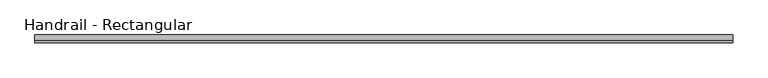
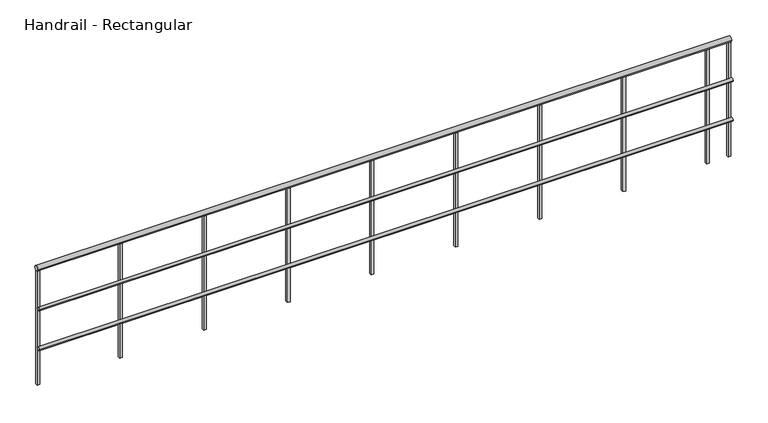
"""IFC4 building model written with IfcOpenShell, lengths in millimetres: railing geometry, Handrail - Rectangular."""

from ifc_helpers import new_model, si_unit, point, frame, frame_2d, origin, place, context, project, spatial, polyline, circle_curve, trimmed, segment, composite_curve, outline, extrude, source, transform, mapped, element, save


def handrail_rectangular_2f5b2840(model_context):
    return source(origin(), model_context, "Body", "SweptSolid", [
        extrude(outline(composite_curve([segment(trimmed(circle_curve(frame_2d((-35578.5683133, 3644.9)), 12.7), [point((-35591.2683133, 3644.9))], [point((-35565.8683133, 3644.9))], False, "CARTESIAN"), True, "CONTINUOUS"), segment(trimmed(circle_curve(frame_2d((-35578.5683133, 3644.9)), 12.7), [point((-35565.8683133, 3644.9))], [point((-35591.2683133, 3644.9))], False, "CARTESIAN"), True, "CONTINUOUS")], self_intersect=False)), frame((-11164.8589563, 0.0, 0.0), z_axis=(1.0, 0.0, 0.0), x_axis=(0.0, 1.0, 0.0)), (0.0, 0.0, 1.0), 5041.9),
        extrude(outline(composite_curve([segment(trimmed(circle_curve(frame_2d((-35578.5683133, 3340.1)), 12.7), [point((-35591.2683133, 3340.1))], [point((-35565.8683133, 3340.1))], False, "CARTESIAN"), True, "CONTINUOUS"), segment(trimmed(circle_curve(frame_2d((-35578.5683133, 3340.1)), 12.7), [point((-35565.8683133, 3340.1))], [point((-35591.2683133, 3340.1))], False, "CARTESIAN"), True, "CONTINUOUS")], self_intersect=False)), frame((-11164.8589563, 0.0, 0.0), z_axis=(1.0, 0.0, 0.0), x_axis=(0.0, 1.0, 0.0)), (0.0, 0.0, 1.0), 5041.9),
        extrude(outline(composite_curve([segment(trimmed(circle_curve(frame_2d((-35553.1683133, 3943.35)), 19.05), [point((-35572.2183133, 3943.35))], [point((-35534.1183133, 3943.35))], False, "CARTESIAN"), True, "CONTINUOUS"), segment(trimmed(circle_curve(frame_2d((-35553.1683133, 3943.35)), 19.05), [point((-35534.1183133, 3943.35))], [point((-35572.2183133, 3943.35))], False, "CARTESIAN"), True, "CONTINUOUS")], self_intersect=False)), frame((-11164.8589563, 0.0, 0.0), z_axis=(1.0, 0.0, 0.0), x_axis=(0.0, 1.0, 0.0)), (0.0, 0.0, 1.0), 5041.9),
        extrude(outline(polyline([(-6297.5839563, -35543.6433133), (-6278.5339563, -35543.6433133), (-6278.5339563, -35562.6933133), (-6297.5839563, -35562.6933133), (-6297.5839563, -35543.6433133)])), frame((0.0, 0.0, 3048.0), z_axis=(0.0, 0.0, 1.0), x_axis=(1.0, 0.0, 0.0)), (0.0, 0.0, 1.0), 876.3),
        extrude(outline(polyline([(-6907.1839563, -35543.6433133), (-6888.1339563, -35543.6433133), (-6888.1339563, -35562.6933133), (-6907.1839563, -35562.6933133), (-6907.1839563, -35543.6433133)])), frame((0.0, 0.0, 3048.0), z_axis=(0.0, 0.0, 1.0), x_axis=(1.0, 0.0, 0.0)), (0.0, 0.0, 1.0), 876.3),
        extrude(outline(polyline([(-7516.7839563, -35543.6433133), (-7497.7339563, -35543.6433133), (-7497.7339563, -35562.6933133), (-7516.7839563, -35562.6933133), (-7516.7839563, -35543.6433133)])), frame((0.0, 0.0, 3048.0), z_axis=(0.0, 0.0, 1.0), x_axis=(1.0, 0.0, 0.0)), (0.0, 0.0, 1.0), 876.3),
        extrude(outline(polyline([(-8126.3839563, -35543.6433133), (-8107.3339563, -35543.6433133), (-8107.3339563, -35562.6933133), (-8126.3839563, -35562.6933133), (-8126.3839563, -35543.6433133)])), frame((0.0, 0.0, 3048.0), z_axis=(0.0, 0.0, 1.0), x_axis=(1.0, 0.0, 0.0)), (0.0, 0.0, 1.0), 876.3),
        extrude(outline(polyline([(-8735.9839563, -35543.6433133), (-8716.9339563, -35543.6433133), (-8716.9339563, -35562.6933133), (-8735.9839563, -35562.6933133), (-8735.9839563, -35543.6433133)])), frame((0.0, 0.0, 3048.0), z_axis=(0.0, 0.0, 1.0), x_axis=(1.0, 0.0, 0.0)), (0.0, 0.0, 1.0), 876.3),
        extrude(outline(polyline([(-9345.5839563, -35543.6433133), (-9326.5339563, -35543.6433133), (-9326.5339563, -35562.6933133), (-9345.5839563, -35562.6933133), (-9345.5839563, -35543.6433133)])), frame((0.0, 0.0, 3048.0), z_axis=(0.0, 0.0, 1.0), x_axis=(1.0, 0.0, 0.0)), (0.0, 0.0, 1.0), 876.3),
        extrude(outline(polyline([(-9955.1839563, -35543.6433133), (-9936.1339563, -35543.6433133), (-9936.1339563, -35562.6933133), (-9955.1839563, -35562.6933133), (-9955.1839563, -35543.6433133)])), frame((0.0, 0.0, 3048.0), z_axis=(0.0, 0.0, 1.0), x_axis=(1.0, 0.0, 0.0)), (0.0, 0.0, 1.0), 876.3),
        extrude(outline(polyline([(-10564.7839563, -35543.6433133), (-10545.7339563, -35543.6433133), (-10545.7339563, -35562.6933133), (-10564.7839563, -35562.6933133), (-10564.7839563, -35543.6433133)])), frame((0.0, 0.0, 3048.0), z_axis=(0.0, 0.0, 1.0), x_axis=(1.0, 0.0, 0.0)), (0.0, 0.0, 1.0), 876.3),
        extrude(outline(polyline([(-6142.0089563, -35543.6433133), (-6122.9589563, -35543.6433133), (-6122.9589563, -35562.6933133), (-6142.0089563, -35562.6933133), (-6142.0089563, -35543.6433133)])), frame((0.0, 0.0, 3048.0), z_axis=(0.0, 0.0, 1.0), x_axis=(1.0, 0.0, 0.0)), (0.0, 0.0, 1.0), 876.3),
        extrude(outline(polyline([(-11164.8589563, -35543.6433133), (-11145.8089563, -35543.6433133), (-11145.8089563, -35562.6933133), (-11164.8589563, -35562.6933133), (-11164.8589563, -35543.6433133)])), frame((0.0, 0.0, 3048.0), z_axis=(0.0, 0.0, 1.0), x_axis=(1.0, 0.0, 0.0)), (0.0, 0.0, 1.0), 876.3),
    ])


if __name__ == "__main__":
    model = new_model("IFC4")
    model_context = context("Model", 3, world=origin())
    ifc_project = project(units=[si_unit("LENGTHUNIT", "METRE", prefix="MILLI")], contexts=[model_context])
    site = spatial("IfcSite", under=ifc_project)
    building = spatial("IfcBuilding", under=site)
    placement = place(None, origin())
    handrail_rectangular_shape = handrail_rectangular_2f5b2840(model_context)
    element("IfcRailing", 1, ObjectType="Handrail - Rectangular", at=placement, inside=building, context=model_context, shape_type="MappedRepresentation", body=[
        mapped(handrail_rectangular_shape, transform((0.0, 0.0, 0.0), x_axis=(1.0, 0.0, 0.0), y_axis=(0.0, 1.0, 0.0), z_axis=(0.0, 0.0, 1.0))),
    ])
    save(model, "model.ifc")
